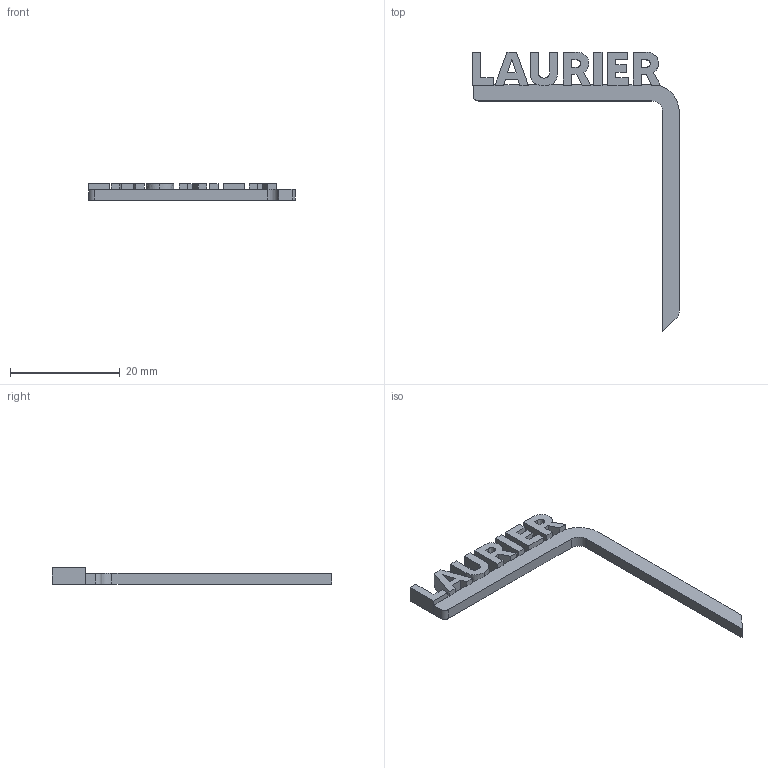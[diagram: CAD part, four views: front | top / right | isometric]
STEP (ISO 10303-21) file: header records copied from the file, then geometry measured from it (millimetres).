
FILE_DESCRIPTION(('STEP AP214'),'1');
FILE_NAME('Laurier.stp','2025-04-24T13:34:22',(' '),(' '),'Spatial InterOp 3D',' ',' ');
FILE_SCHEMA(('AUTOMOTIVE_DESIGN { 1 0 10303 214 1 1 1 1 }'));
Length unit declared in the file: millimetre
Products named in the file (1): Laurier
Bounding box: 37.57 x 50.87 x 3 mm (x, y, z)
Volume: 805.3 mm3; surface area: 1463.3 mm2
Topology: 1 solids, 1 shells, 100 faces, 307 edges, 206 vertices
Faces by surface type: plane 84, extrusion 12, cylinder 4
Entity records: 4333 total; most frequent: CARTESIAN_POINT 778, ORIENTED_EDGE 614, DIRECTION 475, EDGE_CURVE 307, VECTOR 281, LINE 269, VERTEX_POINT 206, EDGE_LOOP 109
